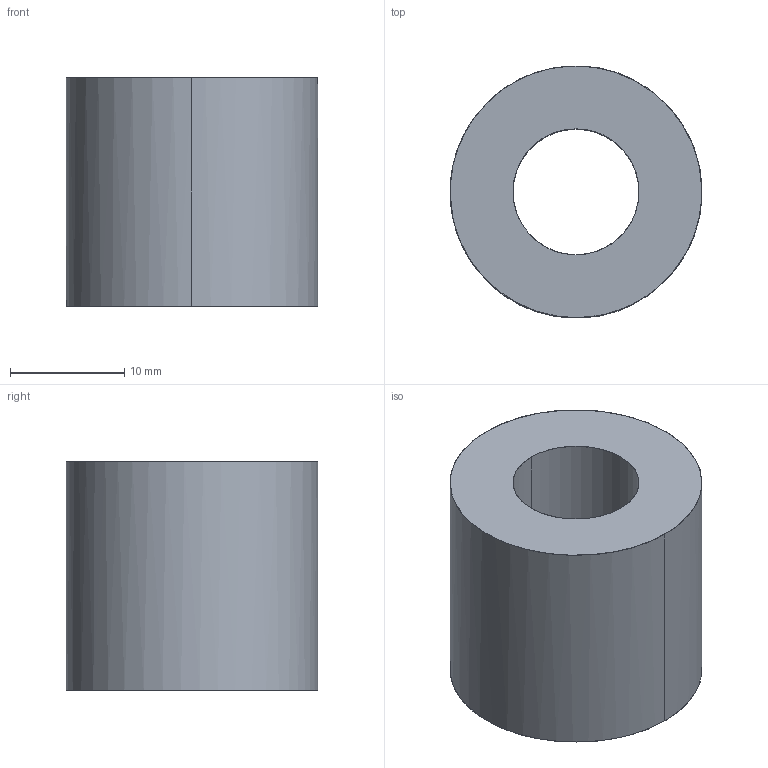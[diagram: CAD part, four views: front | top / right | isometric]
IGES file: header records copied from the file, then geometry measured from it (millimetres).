
Global section: file name: E:\UnigraphicsGraphicData\MISUMI_PRESS-PARTS\IGES\3d_swg22-20_00747_r00.igs; native system: NX V5.0; preprocessor: UGS NX IGES V5.0; author: MISUMI; date: 20110105.163256; units: millimetre
Bounding box: 22 x 22 x 20 mm (x, y, z)
Surface area: 2645.5 mm2 (no closed solid volume)
Topology: 0 solids, 0 shells, 6 faces, 48 edges, 48 vertices
Faces by surface type: bspline 6
